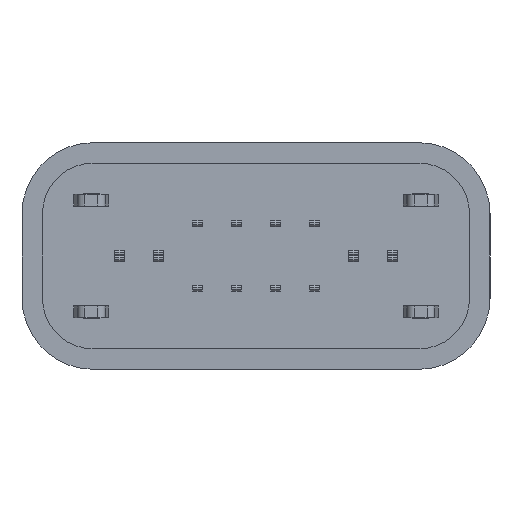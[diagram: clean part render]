
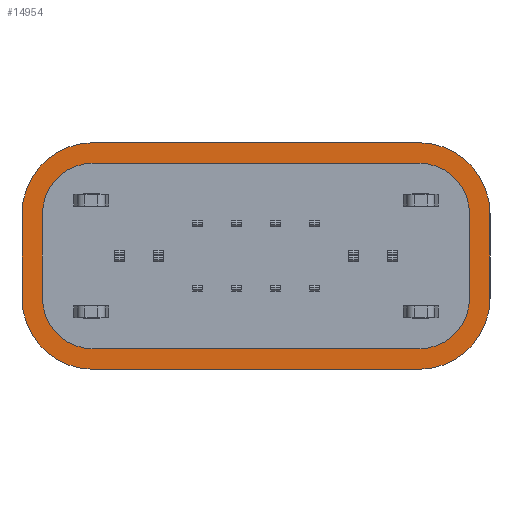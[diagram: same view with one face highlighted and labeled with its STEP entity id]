
A CAD part, front view. The second image highlights one B-rep face of the part: STEP entity #14954.
In plain terms, the highlighted planar face has unit normal (0, -1, 0).
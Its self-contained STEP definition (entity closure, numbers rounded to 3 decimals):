
#143 = CARTESIAN_POINT ( 'NONE',  ( 8.85, 4.651, -4.485 ) ) ;
#152 = CARTESIAN_POINT ( 'NONE',  ( -0.8, 4.651, -2.66 ) ) ;
#160 = ORIENTED_EDGE ( 'NONE', *, *, #21288, .T. ) ;
#327 = LINE ( 'NONE', #21154, #22343 ) ;
#338 = CARTESIAN_POINT ( 'NONE',  ( 0.5, 4.651, -2.66 ) ) ;
#356 = LINE ( 'NONE', #19726, #3190 ) ;
#666 = DIRECTION ( 'NONE',  ( -1., 0., 0. ) ) ;
#711 = FACE_BOUND ( 'NONE', #13243, .T. ) ;
#723 = VERTEX_POINT ( 'NONE', #10125 ) ;
#1227 = ORIENTED_EDGE ( 'NONE', *, *, #2509, .F. ) ;
#1398 = CARTESIAN_POINT ( 'NONE',  ( -0.8, 4.651, -0.5 ) ) ;
#1512 = CIRCLE ( 'NONE', #6582, 1.3 ) ;
#1583 = VERTEX_POINT ( 'NONE', #16871 ) ;
#1844 = AXIS2_PLACEMENT_3D ( 'NONE', #13040, #14957, #7822 ) ;
#1893 = CARTESIAN_POINT ( 'NONE',  ( 0.5, 4.651, -0.5 ) ) ;
#2054 = VERTEX_POINT ( 'NONE', #17916 ) ;
#2105 = ORIENTED_EDGE ( 'NONE', *, *, #18343, .F. ) ;
#2339 = CARTESIAN_POINT ( 'NONE',  ( 10.15, 4.651, -0.5 ) ) ;
#2398 = VERTEX_POINT ( 'NONE', #9856 ) ;
#2509 = EDGE_CURVE ( 'NONE', #8690, #8113, #4313, .T. ) ;
#2552 = LINE ( 'NONE', #12635, #4940 ) ;
#2837 = CARTESIAN_POINT ( 'NONE',  ( 0.5, 4.651, 1.325 ) ) ;
#2878 = ORIENTED_EDGE ( 'NONE', *, *, #20104, .F. ) ;
#3122 = VECTOR ( 'NONE', #3602, 1000. ) ;
#3140 = CARTESIAN_POINT ( 'NONE',  ( 0.5, 4.651, 0.8 ) ) ;
#3190 = VECTOR ( 'NONE', #7260, 1000. ) ;
#3399 = CARTESIAN_POINT ( 'NONE',  ( 8.85, 4.651, -0.5 ) ) ;
#3602 = DIRECTION ( 'NONE',  ( 0., 0., 1. ) ) ;
#3623 = EDGE_CURVE ( 'NONE', #16191, #2054, #13093, .T. ) ;
#3705 = EDGE_CURVE ( 'NONE', #6047, #4406, #11281, .T. ) ;
#3802 = AXIS2_PLACEMENT_3D ( 'NONE', #14882, #11375, #18061 ) ;
#3842 = EDGE_CURVE ( 'NONE', #11556, #12843, #1512, .T. ) ;
#3845 = DIRECTION ( 'NONE',  ( 0., 1., 0. ) ) ;
#4313 = LINE ( 'NONE', #2837, #20726 ) ;
#4406 = VERTEX_POINT ( 'NONE', #143 ) ;
#4515 = VECTOR ( 'NONE', #19101, 1000. ) ;
#4880 = EDGE_CURVE ( 'NONE', #17936, #2398, #21065, .T. ) ;
#4940 = VECTOR ( 'NONE', #9224, 1000. ) ;
#4977 = CARTESIAN_POINT ( 'NONE',  ( 8.85, 4.651, -2.66 ) ) ;
#5072 = ORIENTED_EDGE ( 'NONE', *, *, #3705, .F. ) ;
#5264 = CIRCLE ( 'NONE', #3802, 1.825 ) ;
#5284 = VECTOR ( 'NONE', #11996, 1000. ) ;
#5750 = CARTESIAN_POINT ( 'NONE',  ( -0.8, 4.651, -2.66 ) ) ;
#6047 = VERTEX_POINT ( 'NONE', #17679 ) ;
#6230 = DIRECTION ( 'NONE',  ( 1., 0., 0. ) ) ;
#6582 = AXIS2_PLACEMENT_3D ( 'NONE', #1893, #10081, #16989 ) ;
#6675 = CARTESIAN_POINT ( 'NONE',  ( 0.5, 4.651, -2.66 ) ) ;
#7260 = DIRECTION ( 'NONE',  ( 0., 0., -1. ) ) ;
#7288 = EDGE_CURVE ( 'NONE', #16191, #2398, #356, .T. ) ;
#7476 = CARTESIAN_POINT ( 'NONE',  ( 8.85, 4.651, -2.66 ) ) ;
#7636 = EDGE_CURVE ( 'NONE', #17936, #10287, #17535, .T. ) ;
#7717 = CARTESIAN_POINT ( 'NONE',  ( 10.675, 4.651, -0.5 ) ) ;
#7822 = DIRECTION ( 'NONE',  ( 1., 0., 0. ) ) ;
#7833 = ORIENTED_EDGE ( 'NONE', *, *, #7288, .T. ) ;
#8113 = VERTEX_POINT ( 'NONE', #19404 ) ;
#8260 = ORIENTED_EDGE ( 'NONE', *, *, #11890, .F. ) ;
#8690 = VERTEX_POINT ( 'NONE', #12404 ) ;
#8710 = DIRECTION ( 'NONE',  ( -1., 0., 0. ) ) ;
#9148 = CARTESIAN_POINT ( 'NONE',  ( 8.85, 4.651, -3.96 ) ) ;
#9169 = DIRECTION ( 'NONE',  ( 0., -1., 0. ) ) ;
#9224 = DIRECTION ( 'NONE',  ( 0., 0., -1. ) ) ;
#9322 = FACE_OUTER_BOUND ( 'NONE', #13236, .T. ) ;
#9441 = ORIENTED_EDGE ( 'NONE', *, *, #7636, .T. ) ;
#9553 = DIRECTION ( 'NONE',  ( -1., 0., 0. ) ) ;
#9856 = CARTESIAN_POINT ( 'NONE',  ( 10.15, 4.651, -2.66 ) ) ;
#10081 = DIRECTION ( 'NONE',  ( 0., -1., 0. ) ) ;
#10125 = CARTESIAN_POINT ( 'NONE',  ( -1.325, 4.651, -2.66 ) ) ;
#10178 = DIRECTION ( 'NONE',  ( 0., 1., 0. ) ) ;
#10263 = VERTEX_POINT ( 'NONE', #152 ) ;
#10287 = VERTEX_POINT ( 'NONE', #17265 ) ;
#10293 = ORIENTED_EDGE ( 'NONE', *, *, #13280, .F. ) ;
#10375 = ORIENTED_EDGE ( 'NONE', *, *, #17689, .T. ) ;
#10525 = ORIENTED_EDGE ( 'NONE', *, *, #15797, .F. ) ;
#10833 = VERTEX_POINT ( 'NONE', #7717 ) ;
#11018 = EDGE_CURVE ( 'NONE', #8113, #10833, #20116, .T. ) ;
#11281 = CIRCLE ( 'NONE', #21381, 1.825 ) ;
#11375 = DIRECTION ( 'NONE',  ( 0., 1., 0. ) ) ;
#11556 = VERTEX_POINT ( 'NONE', #16497 ) ;
#11760 = ORIENTED_EDGE ( 'NONE', *, *, #3623, .F. ) ;
#11890 = EDGE_CURVE ( 'NONE', #723, #15074, #13476, .T. ) ;
#11996 = DIRECTION ( 'NONE',  ( 0., 0., 1. ) ) ;
#12404 = CARTESIAN_POINT ( 'NONE',  ( 0.5, 4.651, 1.325 ) ) ;
#12608 = CIRCLE ( 'NONE', #16967, 1.825 ) ;
#12635 = CARTESIAN_POINT ( 'NONE',  ( 10.675, 4.651, -0.5 ) ) ;
#12651 = EDGE_CURVE ( 'NONE', #15074, #8690, #5264, .T. ) ;
#12843 = VERTEX_POINT ( 'NONE', #1398 ) ;
#13040 = CARTESIAN_POINT ( 'NONE',  ( 8.85, 4.651, -0.5 ) ) ;
#13093 = CIRCLE ( 'NONE', #1844, 1.3 ) ;
#13184 = PLANE ( 'NONE',  #16923 ) ;
#13236 = EDGE_LOOP ( 'NONE', ( #1227, #13868, #8260, #10525, #10293, #5072, #2878, #16060 ) ) ;
#13243 = EDGE_LOOP ( 'NONE', ( #7833, #17982, #9441, #2105, #160, #17756, #10375, #11760 ) ) ;
#13280 = EDGE_CURVE ( 'NONE', #4406, #1583, #327, .T. ) ;
#13476 = LINE ( 'NONE', #15394, #5284 ) ;
#13868 = ORIENTED_EDGE ( 'NONE', *, *, #12651, .F. ) ;
#13901 = CIRCLE ( 'NONE', #21872, 1.3 ) ;
#14146 = DIRECTION ( 'NONE',  ( 0., 0., -1. ) ) ;
#14882 = CARTESIAN_POINT ( 'NONE',  ( 0.5, 4.651, -0.5 ) ) ;
#14954 = ADVANCED_FACE ( 'NONE', ( #711, #9322 ), #13184, .T. ) ;
#14957 = DIRECTION ( 'NONE',  ( 0., -1., 0. ) ) ;
#15074 = VERTEX_POINT ( 'NONE', #18742 ) ;
#15295 = AXIS2_PLACEMENT_3D ( 'NONE', #7476, #9169, #21400 ) ;
#15394 = CARTESIAN_POINT ( 'NONE',  ( -1.325, 4.651, -2.66 ) ) ;
#15520 = DIRECTION ( 'NONE',  ( 0., 1., 0. ) ) ;
#15692 = LINE ( 'NONE', #3140, #4515 ) ;
#15797 = EDGE_CURVE ( 'NONE', #1583, #723, #12608, .T. ) ;
#16060 = ORIENTED_EDGE ( 'NONE', *, *, #11018, .F. ) ;
#16191 = VERTEX_POINT ( 'NONE', #2339 ) ;
#16497 = CARTESIAN_POINT ( 'NONE',  ( 0.5, 4.651, 0.8 ) ) ;
#16695 = CARTESIAN_POINT ( 'NONE',  ( -1152.589, 4.651, 0.92 ) ) ;
#16871 = CARTESIAN_POINT ( 'NONE',  ( 0.5, 4.651, -4.485 ) ) ;
#16882 = DIRECTION ( 'NONE',  ( 0., -1., 0. ) ) ;
#16923 = AXIS2_PLACEMENT_3D ( 'NONE', #16695, #21675, #9553 ) ;
#16967 = AXIS2_PLACEMENT_3D ( 'NONE', #338, #3845, #14146 ) ;
#16989 = DIRECTION ( 'NONE',  ( 0., 0., 1. ) ) ;
#17087 = DIRECTION ( 'NONE',  ( 1., 0., 0. ) ) ;
#17265 = CARTESIAN_POINT ( 'NONE',  ( 0.5, 4.651, -3.96 ) ) ;
#17535 = LINE ( 'NONE', #9148, #20896 ) ;
#17619 = CARTESIAN_POINT ( 'NONE',  ( 8.85, 4.651, -3.96 ) ) ;
#17679 = CARTESIAN_POINT ( 'NONE',  ( 10.675, 4.651, -2.66 ) ) ;
#17689 = EDGE_CURVE ( 'NONE', #11556, #2054, #15692, .T. ) ;
#17756 = ORIENTED_EDGE ( 'NONE', *, *, #3842, .F. ) ;
#17916 = CARTESIAN_POINT ( 'NONE',  ( 8.85, 4.651, 0.8 ) ) ;
#17936 = VERTEX_POINT ( 'NONE', #17619 ) ;
#17982 = ORIENTED_EDGE ( 'NONE', *, *, #4880, .F. ) ;
#18061 = DIRECTION ( 'NONE',  ( -1., 0., 0. ) ) ;
#18161 = DIRECTION ( 'NONE',  ( -1., 0., 0. ) ) ;
#18343 = EDGE_CURVE ( 'NONE', #10263, #10287, #13901, .T. ) ;
#18742 = CARTESIAN_POINT ( 'NONE',  ( -1.325, 4.651, -0.5 ) ) ;
#19101 = DIRECTION ( 'NONE',  ( 1., 0., 0. ) ) ;
#19404 = CARTESIAN_POINT ( 'NONE',  ( 8.85, 4.651, 1.325 ) ) ;
#19726 = CARTESIAN_POINT ( 'NONE',  ( 10.15, 4.651, -0.5 ) ) ;
#20104 = EDGE_CURVE ( 'NONE', #10833, #6047, #2552, .T. ) ;
#20116 = CIRCLE ( 'NONE', #22270, 1.825 ) ;
#20726 = VECTOR ( 'NONE', #6230, 1000. ) ;
#20831 = DIRECTION ( 'NONE',  ( 0., 0., 1. ) ) ;
#20896 = VECTOR ( 'NONE', #666, 1000. ) ;
#21065 = CIRCLE ( 'NONE', #15295, 1.3 ) ;
#21154 = CARTESIAN_POINT ( 'NONE',  ( 8.85, 4.651, -4.485 ) ) ;
#21264 = LINE ( 'NONE', #5750, #3122 ) ;
#21288 = EDGE_CURVE ( 'NONE', #10263, #12843, #21264, .T. ) ;
#21381 = AXIS2_PLACEMENT_3D ( 'NONE', #4977, #10178, #17087 ) ;
#21400 = DIRECTION ( 'NONE',  ( 0., 0., -1. ) ) ;
#21675 = DIRECTION ( 'NONE',  ( 0., -1., 0. ) ) ;
#21872 = AXIS2_PLACEMENT_3D ( 'NONE', #6675, #16882, #18161 ) ;
#22270 = AXIS2_PLACEMENT_3D ( 'NONE', #3399, #15520, #20831 ) ;
#22343 = VECTOR ( 'NONE', #8710, 1000. ) ;
